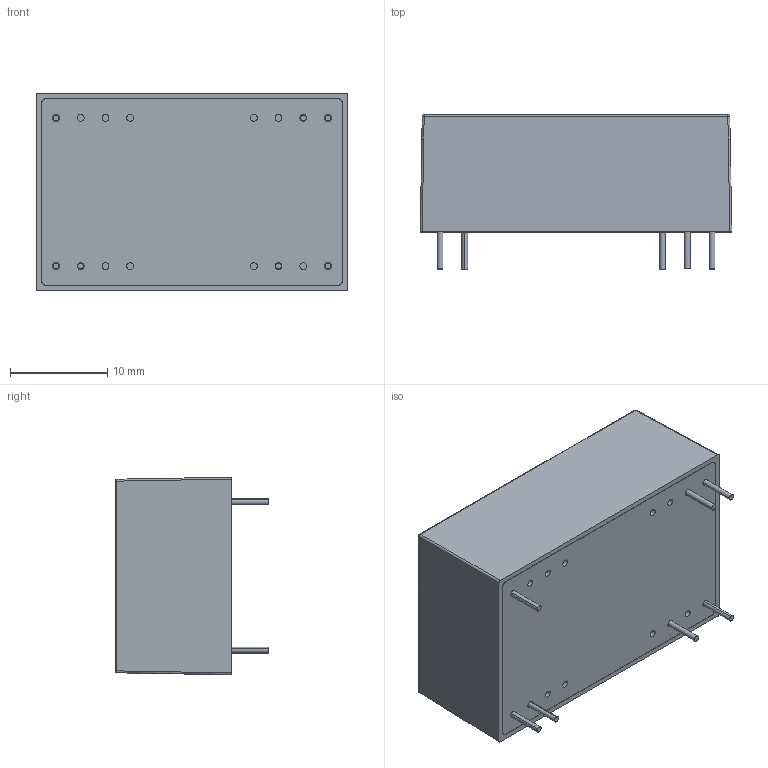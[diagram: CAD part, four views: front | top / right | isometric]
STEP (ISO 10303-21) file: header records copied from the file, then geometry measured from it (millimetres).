
FILE_DESCRIPTION (( 'STEP AP203' ), '1' );
FILE_NAME ('MIW03M_MIW06M.STEP', '2016-09-22T05:57:41', ( 'SuperXP' ), ( 'mychat' ), 'SwSTEP 2.0', 'SolidWorks 2009', '' );
FILE_SCHEMA (( 'CONFIG_CONTROL_DESIGN' ));
Length unit declared in the file: millimetre
Products named in the file (4): MIW03M_MIW06M; CASE; BASE; PIN
Assembly tree (9 placements, depth 2):
  MIW03M_MIW06M
    PIN  x7
    CASE
    BASE
Bounding box: 32 x 15.8 x 20.3 mm (x, y, z)
Volume: 7689.1 mm3; surface area: 4025.9 mm2
Topology: 9 solids, 9 shells, 97 faces, 226 edges, 144 vertices
Faces by surface type: cylinder 62, plane 31, sphere 4
Entity records: 2910 total; most frequent: DIRECTION 448, CARTESIAN_POINT 403, ORIENTED_EDGE 372, EDGE_CURVE 186, AXIS2_PLACEMENT_3D 181, VERTEX_POINT 120, EDGE_LOOP 106, CIRCLE 96
